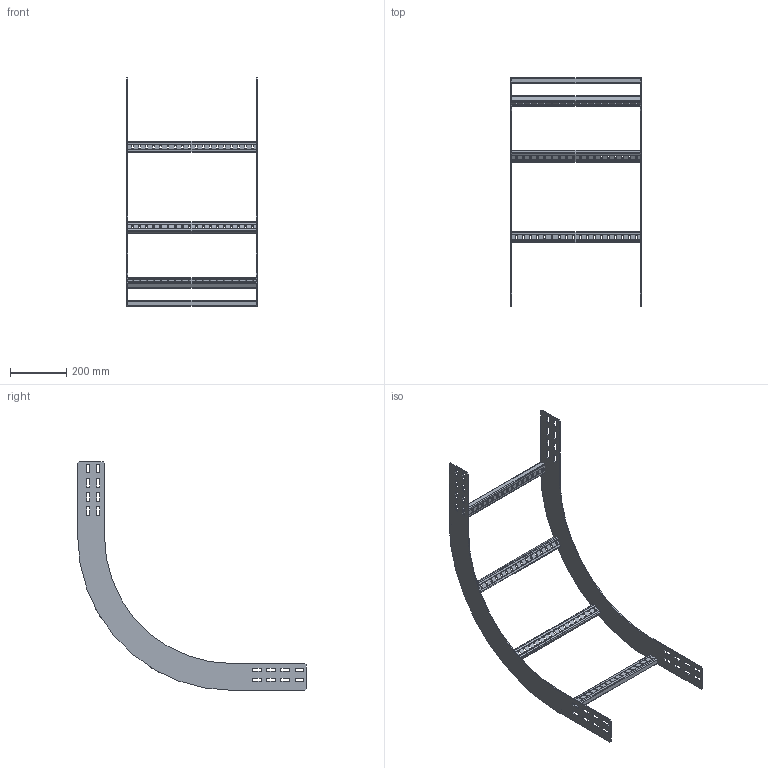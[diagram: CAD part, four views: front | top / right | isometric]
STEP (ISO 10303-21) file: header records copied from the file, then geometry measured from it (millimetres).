
FILE_DESCRIPTION(('Creo Elements/Direct Modeling STEP Export'),'2;1');
FILE_NAME('WPIR10-45-90-45-HDG.stp','2016-11-10T11:01:40',(''),(''),'PTC Creo Elements/Direct Modeling STEP processor for AP214 (Solid Model)','PTC Creo Elements/Direct Modeling 19.0C 15-Aug-2015 (C) Parametric Technology GmbH','');
FILE_SCHEMA(('AUTOMOTIVE_DESIGN { 1 0 10303 214 1 1 1 1 }'));
Length unit declared in the file: millimetre
Products named in the file (3): WPIBG100_450.1; WPHBS45; WPIR10-45-90-45-HDG
Assembly tree (6 placements, depth 2):
  WPIR10-45-90-45-HDG
    WPHBS45  x4
    WPIBG100_450.1  x2
Bounding box: 461 x 810 x 810 mm (x, y, z)
Volume: 979744.2 mm3; surface area: 866096.2 mm2
Topology: 6 solids, 6 shells, 604 faces, 1776 edges, 1184 vertices
Faces by surface type: plane 384, cylinder 220
Entity records: 6532 total; most frequent: CARTESIAN_POINT 1126, ORIENTED_EDGE 1116, DIRECTION 1062, EDGE_CURVE 558, VECTOR 446, LINE 446, VERTEX_POINT 372, AXIS2_PLACEMENT_3D 308
